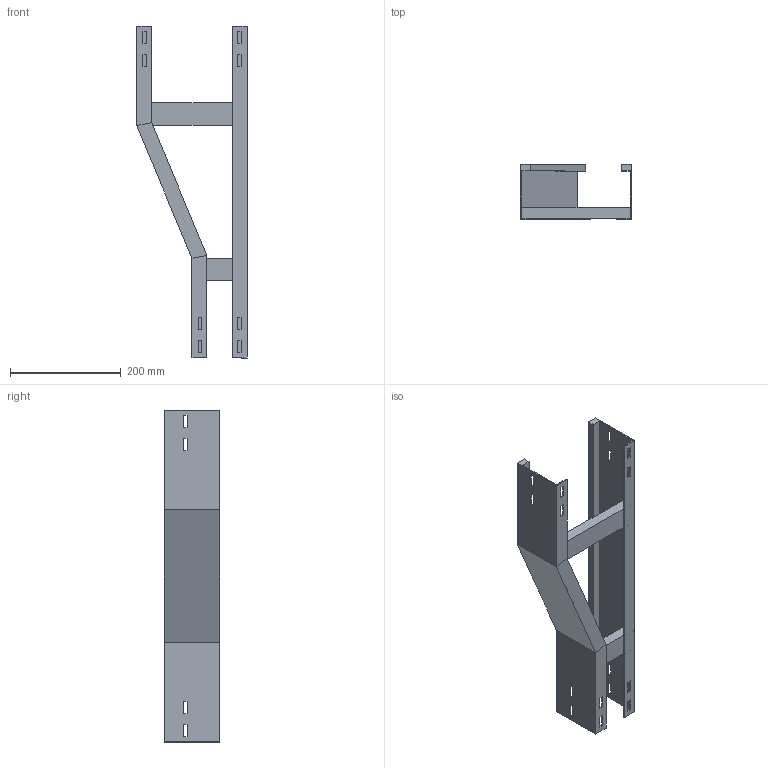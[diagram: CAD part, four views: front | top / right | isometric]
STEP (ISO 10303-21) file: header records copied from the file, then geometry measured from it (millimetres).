
FILE_DESCRIPTION (( 'STEP AP214' ), '1' );
FILE_NAME ('B2X21B1D200XX.step', '2025-09-02T17:16:01', ( '' ), ( '' ), 'SwSTEP 2.0', 'SolidWorks 2023', '' );
FILE_SCHEMA (( 'AUTOMOTIVE_DESIGN' ));
Length unit declared in the file: millimetre
Products named in the file (5): SPONDA RID. DX 200-100_H100; TRAVERSINO_100; B2X21B1D200XX; TRAVERSINO_200; SPONDA DRITTA_H100
Assembly tree (4 placements, depth 2):
  B2X21B1D200XX
    SPONDA RID. DX 200-100_H100
    TRAVERSINO_100
    TRAVERSINO_200
    SPONDA DRITTA_H100
Bounding box: 200 x 100 x 600 mm (x, y, z)
Volume: 770832 mm3; surface area: 386188 mm2
Topology: 4 solids, 4 shells, 112 faces, 296 edges, 192 vertices
Faces by surface type: plane 112
Entity records: 3590 total; most frequent: CARTESIAN_POINT 607, ORIENTED_EDGE 592, DIRECTION 534, LINE 296, VECTOR 296, EDGE_CURVE 296, VERTEX_POINT 192, EDGE_LOOP 144
